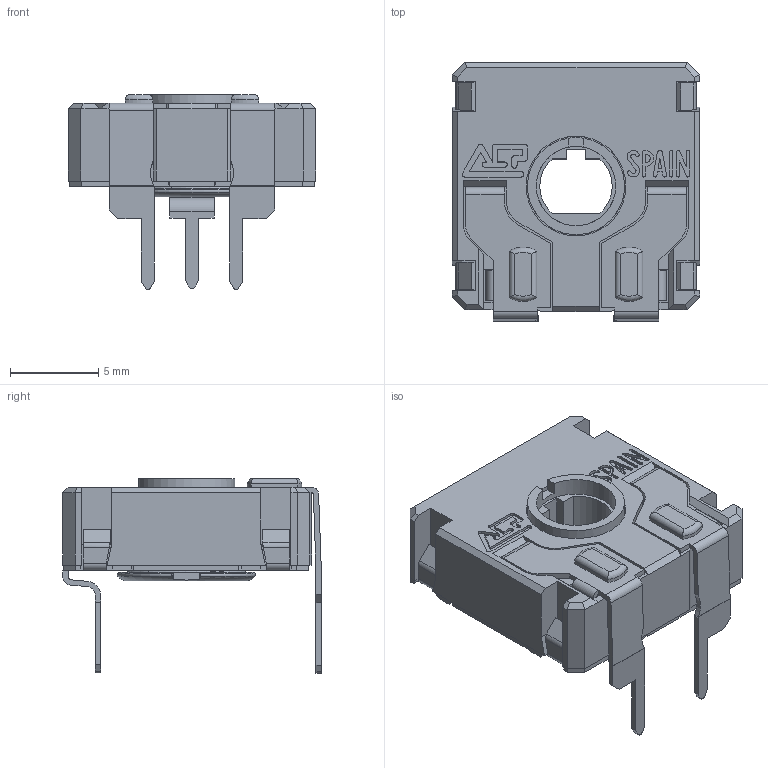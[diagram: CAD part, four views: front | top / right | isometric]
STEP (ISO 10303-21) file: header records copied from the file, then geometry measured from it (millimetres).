
FILE_DESCRIPTION(/* description */ (''),/* implementation_level */ '2;1');
FILE_NAME(/* name */ 'C:\Users\CEM\Desktop\ENVIAR\TRANSICION 3D CATALOGOS\CS14TV12,5x5.stp',/* time_stamp */ '2025-10-24T17:50:01+02:00',/* author */ ('CEM'),/* organization */ (''),/* preprocessor_version */ 'ST-DEVELOPER v17',/* originating_system */ 'Autodesk Inventor 2018',/* authorisation */ '');
FILE_SCHEMA (('AUTOMOTIVE_DESIGN { 1 0 10303 214 3 1 1 }'));
Length unit declared in the file: millimetre
Products named in the file (1): CS14TV12,5x5
Bounding box: 14 x 14.65 x 11.04 mm (x, y, z)
Volume: 549.4 mm3; surface area: 1616.6 mm2
Topology: 1 solids, 3 shells, 729 faces, 2044 edges, 1320 vertices
Faces by surface type: plane 541, cylinder 147, cone 17, bspline 12, torus 12
Full cylindrical faces by diameter (mm): 4.5 x1, 5.5 x1, 5.65 x1, 6.87 x1
Entity records: 24341 total; most frequent: CARTESIAN_POINT 4567, ORIENTED_EDGE 4088, DIRECTION 3804, EDGE_CURVE 2044, LINE 1594, VECTOR 1594, VERTEX_POINT 1320, AXIS2_PLACEMENT_3D 1105
